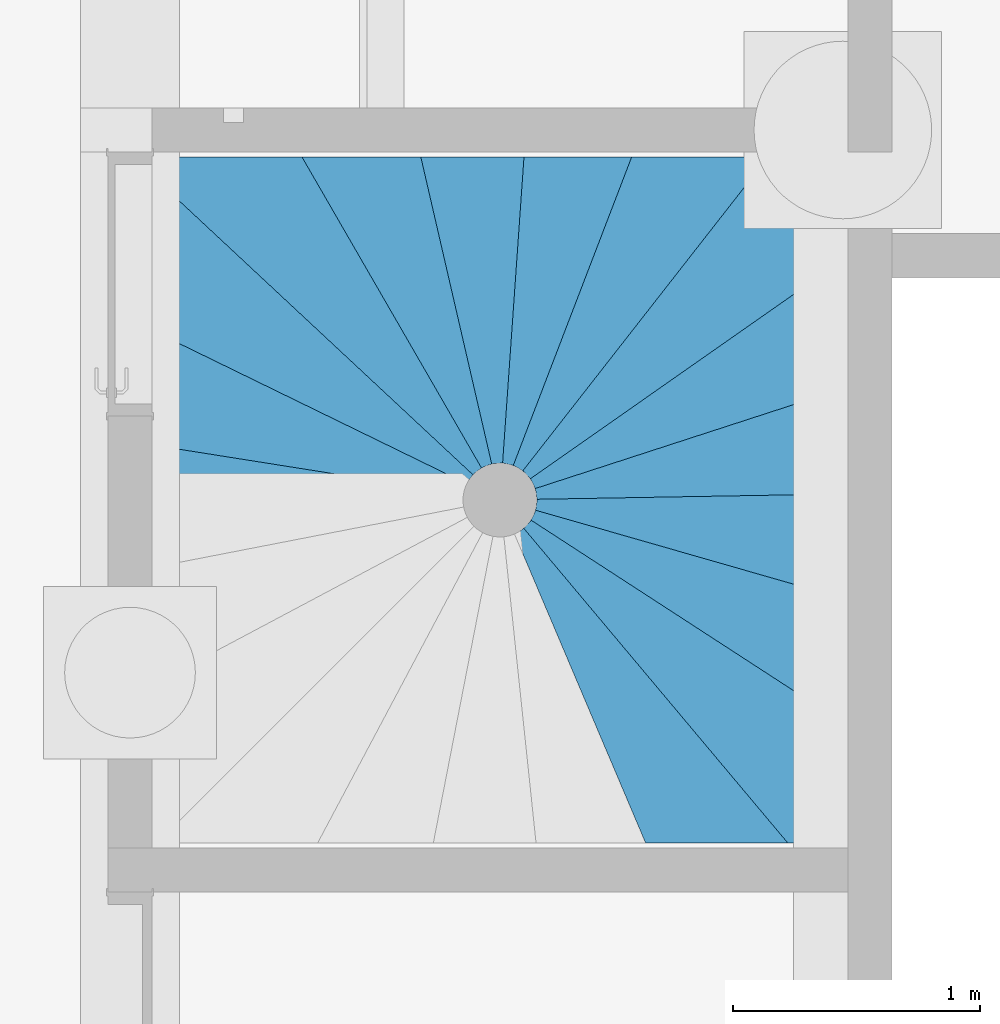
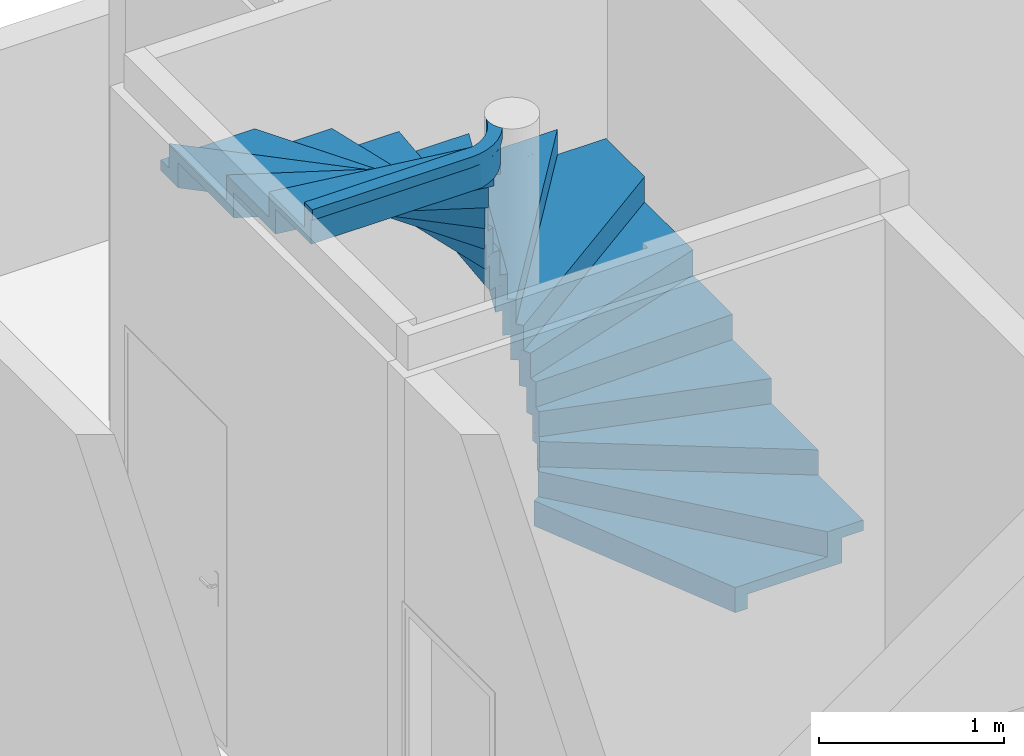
# One storey, part 14 of 14: 1 stair, 1 element without a shape of its own.
"""IFC2X3 building model written with IfcOpenShell, lengths in centimetres."""

import ifcopenshell
import ifcopenshell.guid

model = None  # the IFC model being written
_history = None  # IfcOwnerHistory: only IFC2X3 demands one
_inside = {}  # id of a spatial element -> (the spatial element, [elements in it])
_under = {}  # id of a project, library or spatial element -> (it, [spatial elements below it])
_declared = {}  # id of a project -> (the project, [libraries it declares])
_typed = {}  # id of a type object -> (the type object, [elements of that type])
_made_of = {}  # id of a material, layer set ... -> (it, [elements and type objects made of it])


def new_model(schema):
    """Start an empty IFC model of exactly this schema.

    Asked for "IFC4X3", IfcOpenShell would pick the latest addendum, in which some entities
    have other attributes; the version numbers below select the first issue.
    IFC2X3 requires an IfcOwnerHistory on every rooted entity: one is made here for all.
    """
    global model, _history
    if schema == "IFC4X3":
        model = ifcopenshell.file(schema_version=(4, 3, 0, 0))
    else:
        model = ifcopenshell.file(schema=schema)
    _inside.clear()
    _under.clear()
    _declared.clear()
    _typed.clear()
    _made_of.clear()
    _history = None
    if model.schema == "IFC2X3":
        org = make("IfcOrganization", Name="unknown")
        user = make(
            "IfcPersonAndOrganization",
            ThePerson=make("IfcPerson", FamilyName="unknown"),
            TheOrganization=org,
        )
        app = make(
            "IfcApplication",
            ApplicationDeveloper=org,
            Version="unknown",
            ApplicationFullName="unknown",
            ApplicationIdentifier="unknown",
        )
        _history = make(
            "IfcOwnerHistory",
            OwningUser=user,
            OwningApplication=app,
            ChangeAction="ADDED",
            CreationDate=0,
        )
    return model


def make(cls, **values):
    """One entity of the class cls with the attributes given. An attribute that is None is left unset."""
    return model.create_entity(
        cls, **{name: value for name, value in values.items() if value is not None}
    )


def entity(cls, *values):
    """Any entity or typed value of the class cls, its attributes in the order of the schema. None: left unset."""
    e = model.create_entity(cls)
    for i, value in enumerate(values):
        if value is not None:
            e[i] = value
    return e


def rooted(cls, **values):
    """An entity with a GlobalId (a new one), such as an element, a storey or a relation."""
    return make(cls, GlobalId=ifcopenshell.guid.new(), OwnerHistory=_history, **values)


def si_unit(unit_type, name, prefix=None):
    """IfcSIUnit, for example si_unit("LENGTHUNIT", "METRE", prefix="MILLI")."""
    return make("IfcSIUnit", UnitType=unit_type, Prefix=prefix, Name=name)


def converted_unit(unit_type, name, factor, base, dimensions=None, offset=None):
    """IfcConversionBasedUnit, such as the inch: factor (a typed value) times the base unit."""
    return make(
        "IfcConversionBasedUnit"
        if offset is None
        else "IfcConversionBasedUnitWithOffset",
        ConversionOffset=offset,
        Dimensions=None
        if dimensions is None
        else entity("IfcDimensionalExponents", *dimensions),
        UnitType=unit_type,
        Name=name,
        ConversionFactor=make(
            "IfcMeasureWithUnit", ValueComponent=factor, UnitComponent=base
        ),
    )


def derived_unit(unit_type, elements):
    """IfcDerivedUnit: a product of units, each with its exponent."""
    return make(
        "IfcDerivedUnit",
        Elements=[
            make("IfcDerivedUnitElement", Unit=unit, Exponent=power)
            for unit, power in elements
        ],
        UnitType=unit_type,
    )


def assignment(units):
    """IfcUnitAssignment: the units of a project."""
    return None if units is None else make("IfcUnitAssignment", Units=units)


def point(xyz):
    """IfcCartesianPoint."""
    return None if xyz is None else make("IfcCartesianPoint", Coordinates=xyz)


def direction(xyz):
    """IfcDirection."""
    return None if xyz is None else make("IfcDirection", DirectionRatios=xyz)


def frame(location, z_axis=None, x_axis=None):
    """IfcAxis2Placement3D, a coordinate frame: its origin and axes. An axis left out is left unset."""
    return make(
        "IfcAxis2Placement3D",
        Location=point(location),
        Axis=direction(z_axis),
        RefDirection=direction(x_axis),
    )


def origin():
    """The frame at (0, 0, 0) with its axes left unset."""
    return frame((0.0, 0.0, 0.0))


def place(relative_to, where):
    """IfcLocalPlacement: puts the frame where relative to a parent placement (None: the world)."""
    return make(
        "IfcLocalPlacement", PlacementRelTo=relative_to, RelativePlacement=where
    )


def context(
    kind, dimensions, precision=None, world=None, true_north=None, identifier=None
):
    """IfcGeometricRepresentationContext, for example the 3D "Model" context."""
    return make(
        "IfcGeometricRepresentationContext",
        ContextIdentifier=identifier,
        ContextType=kind,
        CoordinateSpaceDimension=dimensions,
        Precision=precision,
        WorldCoordinateSystem=world,
        TrueNorth=true_north,
    )


def subcontext(parent, identifier, kind, view, scale=None):
    """IfcGeometricRepresentationSubContext, for example "Body" below "Model"."""
    return make(
        "IfcGeometricRepresentationSubContext",
        ContextIdentifier=identifier,
        ContextType=kind,
        ParentContext=parent,
        TargetScale=scale,
        TargetView=view,
    )


def project(units=None, contexts=None):
    """IfcProject with its units and contexts."""
    return rooted(
        "IfcProject",
        Name="project",
        RepresentationContexts=contexts,
        UnitsInContext=assignment(units),
    )


def spatial(cls, under=None, at=None, **own):
    """A site, building, storey or space (cls), placed at a placement, below another one or the project."""
    s = rooted(cls, ObjectPlacement=at, **own)
    if under is not None:
        _under.setdefault(under.id(), (under, []))[1].append(s)
    return s


def faces_of(points, faces, orient=None, outer=None):
    """IfcFace entities. A face is a list of loops; a loop is a list of indices into points, from 0.

    orient and outer hold one flag for each loop. By default every Orientation is true, the
    first loop of a face is its IfcFaceOuterBound and the others are IfcFaceBound.
    """
    made = []
    for i, loops in enumerate(faces):
        bounds = []
        for j, loop in enumerate(loops):
            is_outer = j == 0 if outer is None else outer[i][j]
            bounds.append(
                make(
                    "IfcFaceOuterBound" if is_outer else "IfcFaceBound",
                    Bound=make("IfcPolyLoop", Polygon=[points[k] for k in loop]),
                    Orientation=True if orient is None else orient[i][j],
                )
            )
        made.append(make("IfcFace", Bounds=bounds))
    return made


def faceted_brep(points, faces, orient=None, outer=None, voids=None):
    """IfcFacetedBrep: a solid bounded by flat faces; with voids (closed shells), ...WithVoids."""
    shared = [point(p) for p in points]
    hull = make("IfcClosedShell", CfsFaces=faces_of(shared, faces, orient, outer))
    if voids is None:
        return make("IfcFacetedBrep", Outer=hull)
    return make(
        "IfcFacetedBrepWithVoids",
        Outer=hull,
        Voids=[
            make(cls, CfsFaces=faces_of(shared, fs, o, b)) for cls, fs, o, b in voids
        ],
    )


def shape(context_of_items, identifier, shape_type, items):
    """IfcShapeRepresentation: the items that make up one representation, for example the "Body"."""
    return make(
        "IfcShapeRepresentation",
        ContextOfItems=context_of_items,
        RepresentationIdentifier=identifier,
        RepresentationType=shape_type,
        Items=items,
    )


def material(Name=None, Category=None):
    """IfcMaterial."""
    return make("IfcMaterial", Name=Name, Category=Category)


def made_of(thing, what):
    """Note that an element or type object is made of a material, layer set ...; save() writes the relation."""
    if what is not None:
        _made_of.setdefault(what.id(), (what, []))[1].append(thing)
    return thing


def element(
    cls,
    number,
    at=None,
    inside=None,
    cuts=None,
    type_object=None,
    material=None,
    context=None,
    identifier="Body",
    shape_type=None,
    held_by="IfcProductDefinitionShape",
    body=None,
    shapes=None,
    **own,
):
    """One element of the class cls, such as IfcWall. Its Tag is "e" and its number.

    at: its placement. inside: the storey or other place that contains it. cuts: it is an
    opening in that element (IfcRelVoidsElement). A single representation is given by context,
    identifier, shape_type and body (its items); several are given by shapes. held_by: the class
    of the entity that holds the representations. save() writes the other relations.
    """
    e = rooted(cls, Tag="e%d" % number, ObjectPlacement=at, **own)
    if body is not None:
        shapes = [shape(context, identifier, shape_type, body)]
    if shapes is not None:
        e.Representation = make(held_by, Representations=shapes)
    if inside is not None:
        _inside.setdefault(inside.id(), (inside, []))[1].append(e)
    if cuts is not None:
        rooted(
            "IfcRelVoidsElement", RelatingBuildingElement=cuts, RelatedOpeningElement=e
        )
    if type_object is not None:
        _typed.setdefault(type_object.id(), (type_object, []))[1].append(e)
    return made_of(e, material)


def aggregate(whole, parts):
    """IfcRelAggregates: a whole, such as a stair, and the parts it consists of."""
    return rooted("IfcRelAggregates", RelatingObject=whole, RelatedObjects=parts)


def save(model, path):
    """Write the relations noted so far, then the file.

    IfcRelAggregates (storeys below a building ...), IfcRelContainedInSpatialStructure (elements
    in a storey), IfcRelDefinesByType, IfcRelAssociatesMaterial and IfcRelDeclares: one each for
    every whole, place, type object, material and project.
    """
    for whole, parts in _under.values():
        aggregate(whole, parts)
    for where, things in _inside.values():
        rooted(
            "IfcRelContainedInSpatialStructure",
            RelatedElements=things,
            RelatingStructure=where,
        )
    for kind, things in _typed.values():
        rooted("IfcRelDefinesByType", RelatedObjects=things, RelatingType=kind)
    for what, things in _made_of.values():
        rooted("IfcRelAssociatesMaterial", RelatedObjects=things, RelatingMaterial=what)
    for by, libraries in _declared.values():
        rooted("IfcRelDeclares", RelatingContext=by, RelatedDefinitions=libraries)
    model.write(path)


model = new_model("IFC2X3")

# Units and contexts
model_context = context("Model", 3, precision=0.001, world=origin(), true_north=direction((6.12303176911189e-17, 1.0)))
body_context = subcontext(model_context, "Body", "Model", "MODEL_VIEW")
ifc_project = project(units=[si_unit("LENGTHUNIT", "METRE", prefix="CENTI"), si_unit("AREAUNIT", "SQUARE_METRE"), si_unit("VOLUMEUNIT", "CUBIC_METRE"), converted_unit("PLANEANGLEUNIT", "DEGREE", entity("IfcRatioMeasure", 0.0174532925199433), si_unit("PLANEANGLEUNIT", "RADIAN"), dimensions=[0, 0, 0, 0, 0, 0, 0]), si_unit("MASSUNIT", "GRAM", prefix="KILO"), derived_unit("MASSDENSITYUNIT", [(si_unit("MASSUNIT", "GRAM", prefix="KILO"), 1), (si_unit("LENGTHUNIT", "METRE"), -3)]), si_unit("TIMEUNIT", "SECOND"), si_unit("FREQUENCYUNIT", "HERTZ"), si_unit("THERMODYNAMICTEMPERATUREUNIT", "DEGREE_CELSIUS"), derived_unit("THERMALTRANSMITTANCEUNIT", [(si_unit("MASSUNIT", "GRAM", prefix="KILO"), 1), (si_unit("THERMODYNAMICTEMPERATUREUNIT", "KELVIN"), -1), (si_unit("TIMEUNIT", "SECOND"), -3)]), derived_unit("VOLUMETRICFLOWRATEUNIT", [(si_unit("LENGTHUNIT", "METRE"), 3), (si_unit("TIMEUNIT", "SECOND"), -1)]), si_unit("ELECTRICCURRENTUNIT", "AMPERE"), si_unit("ELECTRICVOLTAGEUNIT", "VOLT"), si_unit("POWERUNIT", "WATT"), si_unit("FORCEUNIT", "NEWTON"), si_unit("ILLUMINANCEUNIT", "LUX"), si_unit("LUMINOUSFLUXUNIT", "LUMEN"), si_unit("LUMINOUSINTENSITYUNIT", "CANDELA"), derived_unit("USERDEFINED", [(si_unit("MASSUNIT", "GRAM", prefix="KILO"), -1), (si_unit("LENGTHUNIT", "METRE"), -2), (si_unit("TIMEUNIT", "SECOND"), 3), (si_unit("LUMINOUSFLUXUNIT", "LUMEN"), 1)]), derived_unit("LINEARVELOCITYUNIT", [(si_unit("LENGTHUNIT", "METRE"), 1), (si_unit("TIMEUNIT", "SECOND"), -1)]), si_unit("PRESSUREUNIT", "PASCAL"), derived_unit("USERDEFINED", [(si_unit("LENGTHUNIT", "METRE"), -2), (si_unit("MASSUNIT", "GRAM", prefix="KILO"), 1), (si_unit("TIMEUNIT", "SECOND"), -2)])], contexts=[model_context])

# Site, building, storey
site_placement = place(None, origin())
site = spatial("IfcSite", under=ifc_project, at=site_placement, Name="Default", CompositionType="ELEMENT")
building_placement = place(site_placement, origin())
building = spatial("IfcBuilding", under=site, at=building_placement, Name="CAGE 03", CompositionType="ELEMENT")
storey_placement = place(building_placement, frame((0.0, 0.0, -42.0)))
storey = spatial("IfcBuildingStorey", under=building, at=storey_placement, Name="+3.58", CompositionType="ELEMENT", Elevation=-42.0000000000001)

# Stairs
stair_1_placement = place(storey_placement, frame((10210.3658201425, 4652.66066607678, 116.0)))
stair_1 = element("IfcStair", 1, at=stair_1_placement, inside=storey, Name="Escalier:Monobloc-générique", ObjectType="Escalier:Monobloc-générique", ShapeType="NOTDEFINED")
ifc_material = material(Name="Béton, C25/30")
stair_2_placement = place(stair_1_placement, origin())
stair_2 = element("IfcStair", 2, at=stair_2_placement, material=ifc_material, Name="Escalier:Monobloc-générique", ObjectType="Escalier:Monobloc-générique", ShapeType="NOTDEFINED", context=body_context, shape_type="Brep", body=[
    faceted_brep([(198.005756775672, 0.0, 16.625), (264.77677168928, 0.0, 16.625), (152.891183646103, 133.340051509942, 16.625), (150.962518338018, 129.95024005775, 16.625), (148.225156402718, 127.172215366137, 16.625), (144.864150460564, 125.193778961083, 16.625), (150.962518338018, 129.95024005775, 9.62500000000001), (152.891183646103, 133.340051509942, 9.62500000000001), (264.77677168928, 0.0, 9.62500000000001), (198.005756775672, 0.0, 9.62500000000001), (144.864150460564, 125.193778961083, 9.62500000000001), (148.225156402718, 127.172215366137, 9.62500000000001)], [[[0, 1, 2, 3, 4, 5]], [[6, 7, 8, 9, 10, 11]], [[1, 0, 9, 8]], [[0, 5, 10, 9]], [[2, 1, 8, 7]], [[7, 6, 3, 2]], [[6, 11, 4, 3]], [[11, 10, 5, 4]]]),
    faceted_brep([(278.0, 0.0, 33.25), (278.0, 57.081837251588, 33.25), (153.938948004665, 137.64802643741, 33.25), (153.085500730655, 133.842610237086, 33.25), (151.279900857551, 130.38582360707, 33.25), (148.644203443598, 127.511338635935, 33.25), (255.638920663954, 0.0, 33.25), (153.085500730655, 133.842610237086, 26.25), (153.938948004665, 137.64802643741, 26.25), (278.0, 57.081837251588, 26.25), (278.0, 0.0, 26.25), (255.638920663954, 0.0, 26.25), (148.644203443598, 127.511338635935, 26.25), (151.279900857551, 130.38582360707, 26.25)], [[[0, 1, 2, 3, 4, 5, 6]], [[7, 8, 9, 10, 11, 12, 13]], [[0, 6, 11, 10]], [[6, 5, 12, 11]], [[2, 1, 9, 8]], [[8, 7, 3, 2]], [[7, 13, 4, 3]], [[13, 12, 5, 4]], [[1, 0, 10, 9]]]),
    faceted_brep([(278.0, 48.7352942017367, 49.875), (278.0, 106.426136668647, 49.875), (153.681671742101, 142.073843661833, 49.875), (153.977858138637, 138.185281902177, 49.875), (153.261631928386, 134.351790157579, 49.875), (151.581405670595, 130.832489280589, 49.875), (153.977858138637, 138.185281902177, 42.875), (153.681671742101, 142.073843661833, 42.875), (278.0, 106.426136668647, 42.875), (278.0, 48.7352942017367, 42.875), (151.581405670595, 130.832489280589, 42.875), (153.261631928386, 134.351790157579, 42.875)], [[[0, 1, 2, 3, 4, 5]], [[6, 7, 8, 9, 10, 11]], [[0, 5, 10, 9]], [[1, 0, 9, 8]], [[2, 1, 8, 7]], [[7, 6, 3, 2]], [[6, 11, 4, 3]], [[11, 10, 5, 4]]]),
    faceted_brep([(153.419362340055, 134.86696362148, 66.5), (278.0, 99.1440406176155, 66.5), (278.0, 148.451870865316, 66.5), (152.128904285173, 146.254782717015, 66.5), (153.557503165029, 142.616504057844, 66.5), (153.997617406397, 138.732657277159, 66.5), (278.0, 148.451870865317, 59.5), (278.0, 99.1440406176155, 59.5), (153.419362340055, 134.86696362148, 59.5), (153.997617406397, 138.732657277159, 59.5), (153.557503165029, 142.616504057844, 59.5), (152.128904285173, 146.254782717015, 59.5)], [[[0, 1, 2, 3, 4, 5]], [[6, 7, 8, 9, 10, 11]], [[2, 1, 7, 6]], [[1, 0, 8, 7]], [[3, 2, 6, 11]], [[11, 10, 4, 3]], [[10, 9, 5, 4]], [[9, 8, 0, 5]]]),
    faceted_brep([(153.997266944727, 139.28632881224, 83.1250000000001), (278.0, 141.45080456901, 83.1250000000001), (278.0, 191.523487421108, 83.1250000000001), (149.45452333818, 149.756530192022, 83.1250000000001), (151.869842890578, 146.705007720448, 83.1250000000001), (153.418847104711, 143.13483351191, 83.1250000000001), (278.0, 191.523487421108, 76.125), (278.0, 141.45080456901, 76.125), (153.997266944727, 139.28632881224, 76.125), (153.418847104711, 143.13483351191, 76.125), (151.869842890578, 146.705007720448, 76.125), (149.45452333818, 149.756530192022, 76.125)], [[[0, 1, 2, 3, 4, 5]], [[6, 7, 8, 9, 10, 11]], [[2, 1, 7, 6]], [[1, 0, 8, 7]], [[3, 2, 6, 11]], [[11, 10, 4, 3]], [[10, 9, 5, 4]], [[9, 8, 0, 5]]]),
    faceted_brep([(151.589225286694, 147.155452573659, 99.75), (153.266019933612, 143.634724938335, 99.75), (278.0, 184.16325185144, 99.75), (278.0, 244.872314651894, 99.75), (145.853855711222, 152.342588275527, 99.75), (149.061557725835, 150.124974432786, 99.75), (145.853855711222, 152.342588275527, 92.75), (278.0, 244.872314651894, 92.75), (278.0, 184.16325185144, 92.75), (153.266019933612, 143.634724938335, 92.75), (151.589225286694, 147.155452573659, 92.75), (149.061557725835, 150.124974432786, 92.75)], [[[0, 1, 2, 3, 4, 5]], [[6, 7, 8, 9, 10, 11]], [[3, 2, 8, 7]], [[2, 1, 9, 8]], [[4, 3, 7, 6]], [[6, 11, 5, 4]], [[11, 10, 0, 5]], [[10, 9, 1, 0]]]),
    faceted_brep([(148.655501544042, 150.479167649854, 116.375), (151.288199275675, 147.602334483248, 116.375), (278.0, 236.326892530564, 116.375), (278.0, 278.0, 116.375), (238.718734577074, 278.0, 116.375), (141.654368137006, 153.763276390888, 116.375), (145.370209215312, 152.580148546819, 116.375), (278.0, 278.0, 109.375), (278.0, 236.326892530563, 109.375), (151.288199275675, 147.602334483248, 109.375), (148.655501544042, 150.479167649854, 109.375), (145.370209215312, 152.580148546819, 109.375), (141.654368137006, 153.763276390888, 109.375), (238.718734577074, 278.0, 109.375)], [[[0, 1, 2, 3, 4, 5, 6]], [[7, 8, 9, 10, 11, 12, 13]], [[3, 2, 8, 7]], [[2, 1, 9, 8]], [[5, 4, 13, 12]], [[12, 11, 6, 5]], [[11, 10, 0, 6]], [[10, 9, 1, 0]], [[4, 3, 7, 13]]]),
    faceted_brep([(144.878186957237, 152.800250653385, 133.0), (148.236884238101, 150.818628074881, 133.0), (247.601862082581, 278.0, 133.0), (184.862444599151, 278.0, 133.0), (137.222745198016, 153.894340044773, 133.0), (141.122184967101, 153.8491188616, 133.0), (184.862444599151, 278.0, 126.0), (247.601862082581, 278.0, 126.0), (148.236884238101, 150.818628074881, 126.0), (144.878186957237, 152.800250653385, 126.0), (141.122184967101, 153.8491188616, 126.0), (137.222745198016, 153.894340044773, 126.0)], [[[0, 1, 2, 3, 4, 5]], [[6, 7, 8, 9, 10, 11]], [[2, 1, 8, 7]], [[3, 2, 7, 6]], [[4, 3, 6, 11]], [[11, 10, 5, 4]], [[10, 9, 0, 5]], [[9, 8, 1, 0]]]),
    faceted_brep([(132.946070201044, 152.724064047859, 149.625), (136.688458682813, 153.820822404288, 149.625), (140.587090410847, 153.915801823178, 149.625), (144.378446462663, 153.002582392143, 149.625), (192.360459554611, 278.0, 149.625), (141.706217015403, 278.0, 149.625), (141.706217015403, 278.0, 142.625), (192.360459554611, 278.0, 142.625), (144.378446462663, 153.002582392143, 142.625), (140.587090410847, 153.915801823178, 142.625), (136.688458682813, 153.820822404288, 142.625), (132.946070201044, 152.724064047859, 142.625)], [[[0, 1, 2, 3, 4, 5]], [[6, 7, 8, 9, 10, 11]], [[5, 4, 7, 6]], [[4, 3, 8, 7]], [[0, 5, 6, 11]], [[11, 10, 1, 0]], [[10, 9, 2, 1]], [[9, 8, 3, 2]]]),
    faceted_brep([(132.456374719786, 152.497443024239, 166.25), (136.157005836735, 153.728115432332, 166.25), (140.049813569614, 153.963217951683, 166.25), (148.723310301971, 278.0, 166.25), (99.7287590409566, 278.0, 166.25), (129.1980701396, 150.354389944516, 166.25), (136.157005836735, 153.728115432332, 159.25), (132.456374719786, 152.497443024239, 159.25), (129.1980701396, 150.354389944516, 159.25), (99.7287590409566, 278.0, 159.25), (148.723310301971, 278.0, 159.25), (140.049813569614, 153.963217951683, 159.25)], [[[0, 1, 2, 3, 4, 5]], [[6, 7, 8, 9, 10, 11]], [[4, 3, 10, 9]], [[3, 2, 11, 10]], [[5, 4, 9, 8]], [[8, 7, 0, 5]], [[7, 6, 1, 0]], [[11, 2, 1, 6]]]),
    faceted_brep([(128.79584213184, 149.994324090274, 182.875), (131.975033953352, 152.25329589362, 182.875), (135.62912016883, 153.616332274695, 182.875), (106.91288779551, 278.0, 182.875), (50.6690294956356, 278.0, 182.875), (126.306461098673, 146.992125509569, 182.875), (128.79584213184, 149.994324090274, 175.875), (126.306461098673, 146.992125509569, 175.875), (50.6690294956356, 278.0, 175.875), (106.91288779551, 278.0, 175.875), (135.62912016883, 153.616332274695, 175.875), (131.975033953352, 152.25329589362, 175.875)], [[[0, 1, 2, 3, 4, 5]], [[6, 7, 8, 9, 10, 11]], [[4, 3, 9, 8]], [[3, 2, 10, 9]], [[5, 4, 8, 7]], [[7, 6, 0, 5]], [[6, 11, 1, 0]], [[10, 2, 1, 11]]]),
    faceted_brep([(126.026985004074, 146.529998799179, 199.5), (128.406770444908, 149.619957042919, 199.5), (131.502715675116, 151.991948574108, 199.5), (58.7519332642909, 278.0, 199.5), (0.0, 278.0, 199.5), (0.0, 259.051709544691, 199.5), (124.524245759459, 142.930971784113, 199.5), (0.0, 278.0, 192.5), (58.7519332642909, 278.0, 192.5), (131.502715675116, 151.991948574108, 192.5), (128.406770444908, 149.619957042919, 192.5), (126.026985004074, 146.529998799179, 192.5), (124.524245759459, 142.930971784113, 192.5), (0.0, 259.051709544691, 192.5)], [[[0, 1, 2, 3, 4, 5, 6]], [[7, 8, 9, 10, 11, 12, 13]], [[4, 3, 8, 7]], [[3, 2, 9, 8]], [[5, 4, 7, 13]], [[6, 5, 13, 12]], [[12, 11, 0, 6]], [[11, 10, 1, 0]], [[9, 2, 1, 10]]]),
    faceted_brep([(124.39208447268, 142.407169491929, 216.125), (125.764309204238, 146.058079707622, 216.125), (128.031392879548, 149.231796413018, 216.125), (0.0, 268.62300177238, 216.125), (0.0, 199.008398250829, 216.125), (124.007494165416, 138.525902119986, 216.125), (0.0, 268.62300177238, 209.125), (128.031392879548, 149.231796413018, 209.125), (125.764309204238, 146.058079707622, 209.125), (124.39208447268, 142.407169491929, 209.125), (124.007494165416, 138.525902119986, 209.125), (0.0, 199.008398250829, 209.125)], [[[0, 1, 2, 3, 4, 5]], [[6, 7, 8, 9, 10, 11]], [[4, 3, 6, 11]], [[3, 2, 7, 6]], [[5, 4, 11, 10]], [[10, 9, 0, 5]], [[9, 8, 1, 0]], [[8, 7, 2, 1]]]),
    faceted_brep([(124.035528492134, 137.968209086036, 232.75), (124.277139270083, 141.870082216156, 232.75), (125.518791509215, 145.577006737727, 232.75), (0.0, 206.796611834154, 232.75), (0.0, 153.904440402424, 232.75), (124.810370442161, 134.13641973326, 232.75), (0.0, 206.796611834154, 225.75), (125.518791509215, 145.577006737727, 225.75), (124.277139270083, 141.870082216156, 225.75), (124.035528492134, 137.968209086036, 225.75), (124.810370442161, 134.13641973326, 225.75), (0.0, 153.904440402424, 225.75)], [[[0, 1, 2, 3, 4, 5]], [[6, 7, 8, 9, 10, 11]], [[4, 3, 6, 11]], [[3, 2, 7, 6]], [[5, 4, 11, 10]], [[10, 9, 0, 5]], [[9, 8, 1, 0]], [[7, 2, 1, 8]]]),
    faceted_brep([(117.506954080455, 120.451044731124, 249.375), (122.201040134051, 124.386572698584, 249.375), (126.115164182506, 129.098521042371, 249.375), (129.122985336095, 134.434796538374, 249.375), (131.127416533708, 140.223153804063, 249.375), (0.0, 160.99169628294, 249.375), (0.0, 115.388215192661, 249.375), (106.405247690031, 115.388215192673, 249.375), (112.184422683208, 117.418968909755, 249.375), (106.405247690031, 115.388215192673, 242.375), (0.0, 115.388215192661, 242.375), (0.0, 160.99169628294, 242.375), (131.127416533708, 140.223153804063, 242.375), (129.122985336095, 134.434796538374, 242.375), (126.115164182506, 129.098521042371, 242.375), (122.201040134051, 124.386572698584, 242.375), (117.506954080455, 120.451044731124, 242.375), (112.184422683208, 117.418968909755, 242.375)], [[[0, 1, 2, 3, 4, 5, 6, 7, 8]], [[9, 10, 11, 12, 13, 14, 15, 16, 17]], [[6, 5, 11, 10]], [[5, 4, 12, 11]], [[9, 17, 8, 7]], [[1, 0, 16, 15]], [[0, 8, 17, 16]], [[2, 14, 13, 3]], [[3, 13, 12, 4]], [[1, 15, 14, 2]], [[7, 6, 10, 9]]]),
    faceted_brep([(110.093141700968, 115.846239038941, 266.0), (115.226148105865, 118.099615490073, 266.0), (119.917886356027, 121.167685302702, 266.0), (124.040193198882, 124.966638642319, 266.0), (127.480460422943, 129.39270027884, 266.0), (125.712223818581, 132.040473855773, 266.0), (124.542667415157, 135.001808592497, 266.0), (124.024485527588, 138.143281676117, 266.0), (124.181024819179, 141.323354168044, 266.0), (122.180677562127, 136.14234931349, 266.0), (119.165981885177, 131.478036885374, 266.0), (115.26359579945, 127.526381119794, 266.0), (110.637472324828, 124.453405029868, 266.0), (105.481971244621, 122.388215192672, 266.0), (0.0, 122.388215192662, 266.0), (0.0, 114.005850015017, 266.0), (99.0724173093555, 114.005850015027, 266.0), (104.659084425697, 114.46911097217, 266.0), (125.712223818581, 132.040473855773, 259.0), (127.480460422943, 129.392700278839, 259.0), (124.040193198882, 124.966638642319, 259.0), (119.917886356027, 121.167685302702, 259.0), (115.226148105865, 118.099615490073, 259.0), (110.093141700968, 115.846239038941, 259.0), (104.659084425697, 114.46911097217, 259.0), (99.0724173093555, 114.005850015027, 259.0), (0.0, 114.005850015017, 259.0), (0.0, 122.388215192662, 259.0), (105.481971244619, 122.388215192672, 259.0), (110.637472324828, 124.453405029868, 259.0), (115.26359579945, 127.526381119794, 259.0), (119.165981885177, 131.478036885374, 259.0), (122.180677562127, 136.14234931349, 259.0), (124.181024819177, 141.323354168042, 259.0), (124.024485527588, 138.143281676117, 259.0), (124.542667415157, 135.001808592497, 259.0)], [[[0, 1, 2, 3, 4, 5, 6, 7, 8, 9, 10, 11, 12, 13, 14, 15, 16, 17]], [[18, 19, 20, 21, 22, 23, 24, 25, 26, 27, 28, 29, 30, 31, 32, 33, 34, 35]], [[15, 14, 27, 26]], [[9, 8, 33, 32]], [[10, 9, 32, 31]], [[31, 30, 11, 10]], [[28, 13, 12, 29]], [[29, 12, 11, 30]], [[14, 13, 28, 27]], [[25, 24, 17, 16]], [[1, 0, 23, 22]], [[0, 17, 24, 23]], [[2, 21, 20, 3]], [[3, 20, 19, 4]], [[1, 22, 21, 2]], [[16, 15, 26, 25]], [[19, 18, 5, 4]], [[6, 5, 18, 35]], [[33, 8, 7, 34]], [[35, 34, 7, 6]]]),
    faceted_brep([(205.61027941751, 0.0, 9.62500000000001), (198.005756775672, 0.0, 9.62500000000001), (198.005756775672, 0.0, 0.0), (205.61027941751, 0.0, 0.0), (150.62963856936, 129.526272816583, 0.0), (148.011148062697, 127.008369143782, 0.0), (148.011148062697, 127.008369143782, 9.62500000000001), (150.62963856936, 129.526272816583, 9.62500000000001), (144.864150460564, 125.193778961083, 0.0), (144.864150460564, 125.193778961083, 9.62500000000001)], [[[0, 1, 2, 3]], [[4, 5, 6, 7]], [[8, 9, 6, 5]], [[2, 1, 9, 8]], [[3, 2, 8, 5, 4]], [[0, 3, 4, 7]], [[1, 0, 7, 6, 9]]]),
    faceted_brep([(264.77677168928, 0.0, 26.25), (255.638920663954, 0.0, 26.25), (255.638920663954, 0.0, 16.625), (264.77677168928, 0.0, 16.625), (152.891183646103, 133.340051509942, 16.625), (151.123204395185, 130.166658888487, 16.625), (151.123204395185, 130.166658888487, 26.25), (152.891183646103, 133.340051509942, 26.25), (148.644203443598, 127.511338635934, 16.625), (148.644203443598, 127.511338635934, 26.25)], [[[0, 1, 2, 3]], [[4, 5, 6, 7]], [[8, 9, 6, 5]], [[2, 1, 9, 8]], [[3, 2, 8, 5, 4]], [[0, 3, 4, 7]], [[1, 0, 7, 6, 9]]]),
    faceted_brep([(278.0, 48.7352942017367, 42.875), (278.0, 48.7352942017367, 33.25), (278.0, 57.081837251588, 33.25), (278.0, 57.081837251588, 42.875), (153.938948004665, 137.64802643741, 33.25), (153.175872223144, 134.096465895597, 33.25), (153.175872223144, 134.096465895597, 42.875), (153.938948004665, 137.64802643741, 42.875), (151.581405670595, 130.832489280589, 33.25), (151.581405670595, 130.832489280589, 42.875)], [[[0, 1, 2, 3]], [[4, 5, 6, 7]], [[8, 9, 6, 5]], [[1, 0, 9, 8]], [[2, 1, 8, 5, 4]], [[3, 2, 4, 7]], [[0, 3, 7, 6, 9]]]),
    faceted_brep([(278.0, 99.1440406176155, 59.5), (278.0, 99.1440406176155, 49.875), (278.0, 106.426136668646, 49.875), (278.0, 106.426136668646, 59.5), (153.681671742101, 142.073843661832, 49.875), (153.990074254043, 138.454405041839, 49.875), (153.990074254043, 138.454405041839, 59.5), (153.681671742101, 142.073843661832, 59.5), (153.419362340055, 134.86696362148, 49.875), (153.419362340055, 134.86696362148, 59.5)], [[[0, 1, 2, 3]], [[4, 5, 6, 7]], [[8, 9, 6, 5]], [[1, 0, 9, 8]], [[2, 1, 8, 5, 4]], [[3, 2, 4, 7]], [[0, 3, 7, 6, 9]]]),
    faceted_brep([(278.0, 141.45080456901, 76.125), (278.0, 141.45080456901, 66.5), (278.0, 148.451870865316, 66.5), (278.0, 148.451870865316, 76.125), (152.128904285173, 146.254782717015, 66.5), (153.488278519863, 142.884557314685, 66.5), (153.488278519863, 142.884557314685, 76.125), (152.128904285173, 146.254782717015, 76.125), (153.997266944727, 139.28632881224, 66.5), (153.997266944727, 139.28632881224, 76.125)], [[[0, 1, 2, 3]], [[4, 5, 6, 7]], [[8, 9, 6, 5]], [[1, 0, 9, 8]], [[2, 1, 8, 5, 4]], [[3, 2, 4, 7]], [[0, 3, 7, 6, 9]]]),
    faceted_brep([(278.0, 184.16325185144, 92.75), (278.0, 184.16325185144, 83.125), (278.0, 191.523487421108, 83.125), (278.0, 191.523487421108, 92.75), (149.45452333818, 149.756530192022, 83.125), (151.733634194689, 146.928086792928, 83.125), (151.733634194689, 146.928086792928, 92.75), (149.45452333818, 149.756530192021, 92.75), (153.266019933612, 143.634724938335, 83.125), (153.266019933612, 143.634724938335, 92.75)], [[[0, 1, 2, 3]], [[4, 5, 6, 7]], [[8, 9, 6, 5]], [[1, 0, 9, 8]], [[2, 1, 8, 5, 4]], [[3, 2, 4, 7]], [[0, 3, 7, 6, 9]]]),
    faceted_brep([(278.0, 236.326892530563, 109.375), (278.0, 236.326892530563, 99.75), (278.0, 244.872314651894, 99.75), (278.0, 244.872314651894, 109.375), (145.853855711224, 152.342588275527, 99.75), (148.8601251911, 150.303890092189, 99.75), (148.8601251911, 150.303890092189, 109.375), (145.853855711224, 152.342588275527, 109.375), (151.288199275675, 147.602334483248, 99.75), (151.288199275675, 147.602334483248, 109.375)], [[[0, 1, 2, 3]], [[4, 5, 6, 7]], [[8, 9, 6, 5]], [[1, 0, 9, 8]], [[2, 1, 8, 5, 4]], [[3, 2, 4, 7]], [[0, 3, 7, 6, 9]]]),
    faceted_brep([(247.601862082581, 278.0, 116.375), (238.718734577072, 278.0, 116.375), (238.718734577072, 278.0, 126.0), (247.601862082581, 278.0, 126.0), (141.654368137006, 153.763276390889, 116.375), (145.12521095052, 152.692399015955, 116.375), (145.12521095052, 152.692399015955, 126.0), (141.654368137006, 153.763276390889, 126.0), (148.236884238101, 150.818628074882, 116.375), (148.236884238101, 150.818628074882, 126.0)], [[[0, 1, 2, 3]], [[4, 5, 6, 7]], [[8, 9, 6, 5]], [[0, 3, 9, 8]], [[1, 0, 8, 5, 4]], [[2, 1, 4, 7]], [[3, 2, 7, 6, 9]]]),
    faceted_brep([(192.360459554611, 278.0, 133.0), (184.862444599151, 278.0, 133.0), (184.862444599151, 278.0, 142.625), (192.360459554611, 278.0, 142.625), (137.222745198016, 153.894340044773, 133.0), (140.854980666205, 153.884859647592, 133.0), (140.854980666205, 153.884859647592, 142.625), (137.222745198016, 153.894340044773, 142.625), (144.378446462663, 153.002582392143, 133.0), (144.378446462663, 153.002582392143, 142.625)], [[[0, 1, 2, 3]], [[4, 5, 6, 7]], [[8, 9, 6, 5]], [[0, 3, 9, 8]], [[1, 0, 8, 5, 4]], [[2, 1, 4, 7]], [[3, 2, 7, 6, 9]]]),
    faceted_brep([(148.723310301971, 278.0, 149.625), (141.706217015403, 278.0, 149.625), (141.706217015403, 278.0, 159.25), (148.723310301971, 278.0, 159.25), (132.946070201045, 152.724064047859, 149.625), (136.422371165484, 153.776868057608, 149.625), (136.422371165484, 153.776868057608, 159.25), (132.946070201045, 152.724064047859, 159.25), (140.049813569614, 153.963217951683, 149.625), (140.049813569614, 153.963217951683, 159.25)], [[[0, 1, 2, 3]], [[4, 5, 6, 7]], [[8, 9, 6, 5]], [[0, 3, 9, 8]], [[1, 0, 8, 5, 4]], [[2, 1, 4, 7]], [[3, 2, 7, 6, 9]]]),
    faceted_brep([(106.91288779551, 278.0, 166.25), (99.7287590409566, 278.0, 166.25), (99.7287590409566, 278.0, 175.875), (106.91288779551, 278.0, 175.875), (132.214663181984, 152.377563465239, 166.25), (132.214663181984, 152.377563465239, 175.875), (129.198070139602, 150.354389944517, 175.875), (129.198070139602, 150.354389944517, 166.25), (135.62912016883, 153.616332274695, 166.25), (135.62912016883, 153.616332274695, 175.875)], [[[0, 1, 2, 3]], [[4, 5, 6, 7]], [[8, 9, 5, 4]], [[0, 3, 9, 8]], [[1, 0, 8, 4, 7]], [[2, 1, 7, 6]], [[3, 2, 6, 5, 9]]]),
    faceted_brep([(58.7519332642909, 278.0, 182.875), (50.6690294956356, 278.0, 182.875), (50.6690294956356, 278.0, 192.5), (58.7519332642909, 278.0, 192.5), (126.306461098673, 146.992125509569, 192.5), (126.306461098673, 146.992125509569, 182.875), (128.599668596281, 149.808936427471, 182.875), (128.599668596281, 149.808936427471, 192.5), (131.502715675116, 151.991948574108, 182.875), (131.502715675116, 151.991948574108, 192.5)], [[[0, 1, 2, 3]], [[4, 5, 6, 7]], [[8, 9, 7, 6]], [[0, 3, 9, 8]], [[1, 0, 8, 6, 5]], [[2, 1, 5, 4]], [[3, 2, 4, 7, 9]]]),
    faceted_brep([(0.0, 268.62300177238, 209.125), (0.0, 268.62300177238, 199.5), (0.0, 259.051709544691, 199.5), (0.0, 259.051709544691, 209.125), (124.524245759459, 142.930971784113, 199.5), (125.893552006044, 146.295273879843, 199.5), (125.893552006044, 146.295273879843, 209.125), (124.524245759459, 142.930971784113, 209.125), (128.031392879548, 149.231796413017, 199.5), (128.031392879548, 149.231796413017, 209.125)], [[[0, 1, 2, 3]], [[4, 5, 6, 7]], [[8, 9, 6, 5]], [[1, 0, 9, 8]], [[2, 1, 8, 5, 4]], [[3, 2, 4, 7]], [[0, 3, 7, 6, 9]]]),
    faceted_brep([(0.0, 206.796611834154, 225.75), (0.0, 206.796611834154, 216.125), (0.0, 199.008398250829, 216.125), (0.0, 199.008398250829, 225.75), (124.007494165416, 138.525902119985, 216.125), (124.333111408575, 142.143625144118, 216.125), (124.333111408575, 142.143625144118, 225.75), (124.007494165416, 138.525902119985, 225.75), (125.518791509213, 145.577006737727, 216.125), (125.518791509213, 145.577006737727, 225.75)], [[[0, 1, 2, 3]], [[4, 5, 6, 7]], [[8, 9, 6, 5]], [[1, 0, 9, 8]], [[2, 1, 8, 5, 4]], [[3, 2, 4, 7]], [[0, 3, 7, 6, 9]]]),
    faceted_brep([(0.0, 160.99169628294, 242.375), (0.0, 160.99169628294, 232.75), (0.0, 153.904440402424, 232.75), (0.0, 153.904440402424, 242.375), (128.694969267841, 133.521159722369, 232.75), (130.086858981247, 136.808399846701, 232.75), (130.086858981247, 136.808399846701, 242.375), (128.694969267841, 133.521159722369, 242.375), (131.127416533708, 140.223153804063, 232.75), (131.127416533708, 140.223153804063, 242.375)], [[[0, 1, 2, 3]], [[4, 5, 6, 7]], [[6, 5, 8, 9]], [[1, 0, 9, 8]], [[2, 1, 8, 5, 4]], [[3, 2, 4, 7]], [[0, 3, 7, 6, 9]]]),
    faceted_brep([(110.637472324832, 124.453405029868, 249.375), (105.481971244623, 122.388215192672, 249.375), (105.481971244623, 122.388215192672, 259.0), (110.637472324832, 124.453405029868, 259.0), (115.263595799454, 127.526381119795, 249.375), (115.263595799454, 127.526381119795, 259.0), (119.165981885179, 131.478036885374, 259.0), (119.165981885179, 131.478036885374, 249.375), (122.180677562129, 136.142349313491, 249.375), (122.180677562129, 136.142349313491, 259.0), (124.181024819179, 141.323354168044, 249.375), (124.181024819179, 141.323354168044, 259.0), (121.930335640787, 124.11765981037, 249.375), (117.297586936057, 120.306563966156, 249.375), (125.823430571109, 128.681717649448, 249.375), (128.856353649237, 133.857448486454, 249.375), (130.935215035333, 139.484627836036, 249.375), (112.068599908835, 117.366409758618, 249.375), (105.956755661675, 118.890641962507, 249.375), (106.405247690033, 115.388215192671, 249.375), (0.0, 115.388215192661, 249.375), (0.0, 122.388215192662, 249.375), (106.405247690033, 115.388215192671, 259.0), (112.068599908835, 117.366409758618, 259.0), (117.297586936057, 120.306563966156, 259.0), (121.930335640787, 124.11765981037, 259.0), (128.856353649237, 133.857448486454, 259.0), (125.823430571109, 128.681717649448, 259.0), (130.935215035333, 139.484627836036, 259.0), (105.956755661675, 118.890641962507, 259.0), (0.0, 115.388215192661, 259.0), (0.0, 122.388215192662, 259.0)], [[[0, 1, 2, 3]], [[4, 0, 3, 5]], [[5, 6, 7, 4]], [[8, 7, 6, 9]], [[10, 8, 9, 11]], [[4, 7, 12]], [[13, 4, 12]], [[13, 0, 4]], [[14, 12, 7]], [[7, 8, 14]], [[8, 15, 14]], [[10, 15, 8]], [[15, 10, 16]], [[17, 0, 13]], [[0, 17, 18]], [[17, 19, 18]], [[18, 19, 20]], [[18, 20, 1]], [[20, 21, 1]], [[1, 0, 18]], [[22, 19, 17, 23]], [[23, 17, 13, 24]], [[13, 12, 25, 24]], [[26, 27, 14, 15]], [[28, 26, 15, 16]], [[14, 27, 25, 12]], [[25, 6, 5]], [[6, 25, 27]], [[25, 5, 24]], [[27, 9, 6]], [[27, 26, 9]], [[9, 26, 11]], [[28, 11, 26]], [[5, 3, 24]], [[24, 3, 23]], [[29, 23, 3]], [[29, 3, 2]], [[30, 29, 2]], [[31, 30, 2]], [[29, 30, 22]], [[29, 22, 23]], [[21, 31, 2, 1]], [[30, 20, 19, 22]], [[31, 21, 20, 30]], [[28, 16, 10, 11]]]),
])
aggregate(stair_1, [stair_2])

save(model, "model.ifc")
